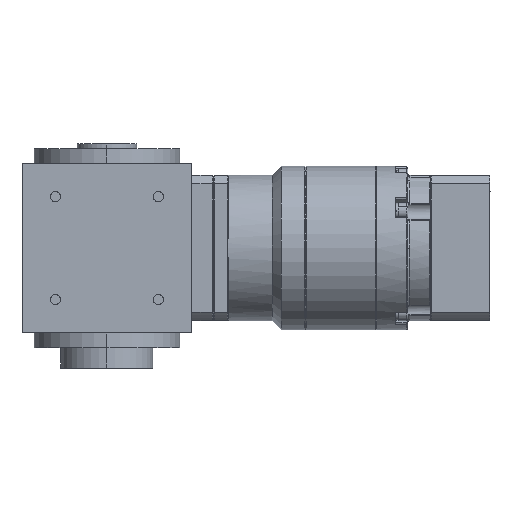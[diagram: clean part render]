
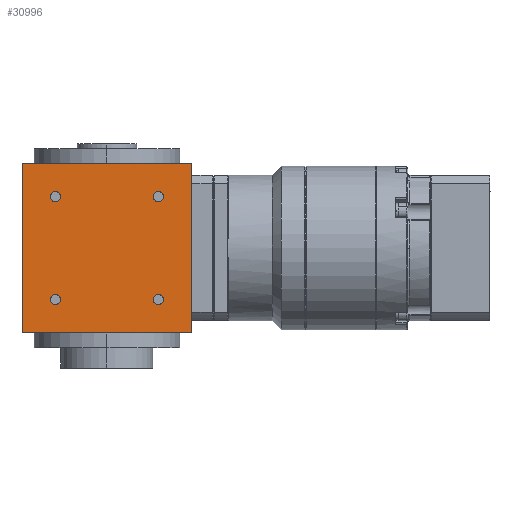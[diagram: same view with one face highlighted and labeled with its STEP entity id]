
A CAD part, left-side view. The second image highlights one B-rep face of the part: STEP entity #30996.
In plain terms, the highlighted planar face has unit normal (-1, 0, 0).
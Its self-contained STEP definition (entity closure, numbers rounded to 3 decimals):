
#477 = FACE_BOUND ( 'NONE', #10835, .T. ) ;
#590 = CARTESIAN_POINT ( 'NONE',  ( -35., -21.213, 21.213 ) ) ;
#1011 = VERTEX_POINT ( 'NONE', #22765 ) ;
#1396 = AXIS2_PLACEMENT_3D ( 'NONE', #590, #8149, #10407 ) ;
#1455 = VERTEX_POINT ( 'NONE', #25993 ) ;
#1876 = AXIS2_PLACEMENT_3D ( 'NONE', #10295, #22674, #22839 ) ;
#1989 = DIRECTION ( 'NONE',  ( 0., -1., 0. ) ) ;
#2300 = VERTEX_POINT ( 'NONE', #19332 ) ;
#2793 = EDGE_CURVE ( 'NONE', #30380, #2300, #31050, .T. ) ;
#2864 = DIRECTION ( 'NONE',  ( 0., -1., 0. ) ) ;
#3685 = VECTOR ( 'NONE', #30088, 1000. ) ;
#4239 = DIRECTION ( 'NONE',  ( 1., 0., 0. ) ) ;
#4642 = EDGE_CURVE ( 'NONE', #21988, #27506, #18541, .T. ) ;
#4647 = ORIENTED_EDGE ( 'NONE', *, *, #18166, .T. ) ;
#4703 = EDGE_CURVE ( 'NONE', #27506, #21988, #30917, .T. ) ;
#4999 = EDGE_CURVE ( 'NONE', #7158, #1011, #16893, .T. ) ;
#5089 = CARTESIAN_POINT ( 'NONE',  ( -35., 21.213, -21.213 ) ) ;
#5367 = EDGE_CURVE ( 'NONE', #14785, #8241, #28637, .T. ) ;
#5781 = FACE_BOUND ( 'NONE', #7157, .T. ) ;
#6309 = ORIENTED_EDGE ( 'NONE', *, *, #28696, .T. ) ;
#6415 = AXIS2_PLACEMENT_3D ( 'NONE', #31045, #16519, #20716 ) ;
#6509 = CIRCLE ( 'NONE', #30715, 2.1 ) ;
#6604 = DIRECTION ( 'NONE',  ( 1., 0., 0. ) ) ;
#6643 = CARTESIAN_POINT ( 'NONE',  ( -35., -21.213, -21.213 ) ) ;
#6662 = VECTOR ( 'NONE', #18998, 1000. ) ;
#7158 = VERTEX_POINT ( 'NONE', #30350 ) ;
#7157 = EDGE_LOOP ( 'NONE', ( #6309, #16857 ) ) ;
#7424 = DIRECTION ( 'NONE',  ( 1., 0., 0. ) ) ;
#7710 = CIRCLE ( 'NONE', #26809, 2.1 ) ;
#8149 = DIRECTION ( 'NONE',  ( 1., 0., 0. ) ) ;
#8177 = CARTESIAN_POINT ( 'NONE',  ( -35., -23.313, 21.213 ) ) ;
#8241 = VERTEX_POINT ( 'NONE', #23322 ) ;
#8308 = ORIENTED_EDGE ( 'NONE', *, *, #22977, .T. ) ;
#8485 = CIRCLE ( 'NONE', #6415, 2.1 ) ;
#9036 = CARTESIAN_POINT ( 'NONE',  ( -35., 35., -35. ) ) ;
#9431 = CARTESIAN_POINT ( 'NONE',  ( -35., -19.113, -21.213 ) ) ;
#9480 = ORIENTED_EDGE ( 'NONE', *, *, #12671, .F. ) ;
#9778 = DIRECTION ( 'NONE',  ( 1., 0., 0. ) ) ;
#10295 = CARTESIAN_POINT ( 'NONE',  ( -35., 35., -35. ) ) ;
#10407 = DIRECTION ( 'NONE',  ( 0., -1., 0. ) ) ;
#10628 = EDGE_CURVE ( 'NONE', #29567, #22961, #8485, .T. ) ;
#10835 = EDGE_LOOP ( 'NONE', ( #4647, #27313 ) ) ;
#10861 = AXIS2_PLACEMENT_3D ( 'NONE', #6643, #4239, #1989 ) ;
#10902 = VERTEX_POINT ( 'NONE', #12487 ) ;
#11054 = ORIENTED_EDGE ( 'NONE', *, *, #11925, .T. ) ;
#11336 = DIRECTION ( 'NONE',  ( 0., -1., 0. ) ) ;
#11925 = EDGE_CURVE ( 'NONE', #2300, #30380, #6509, .T. ) ;
#12487 = CARTESIAN_POINT ( 'NONE',  ( -35., 19.113, 21.213 ) ) ;
#12671 = EDGE_CURVE ( 'NONE', #1011, #14785, #18712, .T. ) ;
#13039 = FACE_BOUND ( 'NONE', #22118, .T. ) ;
#13860 = DIRECTION ( 'NONE',  ( 0., -1., 0. ) ) ;
#14589 = CARTESIAN_POINT ( 'NONE',  ( -35., -23.313, -21.213 ) ) ;
#14785 = VERTEX_POINT ( 'NONE', #16804 ) ;
#15253 = ORIENTED_EDGE ( 'NONE', *, *, #4703, .T. ) ;
#16449 = CARTESIAN_POINT ( 'NONE',  ( -35., 23.313, -21.213 ) ) ;
#16519 = DIRECTION ( 'NONE',  ( 1., 0., 0. ) ) ;
#16804 = CARTESIAN_POINT ( 'NONE',  ( -35., -35., 35. ) ) ;
#16857 = ORIENTED_EDGE ( 'NONE', *, *, #21789, .T. ) ;
#16893 = LINE ( 'NONE', #9036, #6662 ) ;
#17521 = FACE_OUTER_BOUND ( 'NONE', #17975, .T. ) ;
#17975 = EDGE_LOOP ( 'NONE', ( #19849, #9480, #29576, #8308 ) ) ;
#18166 = EDGE_CURVE ( 'NONE', #22961, #29567, #30193, .T. ) ;
#18541 = CIRCLE ( 'NONE', #10861, 2.1 ) ;
#18712 = LINE ( 'NONE', #23085, #25220 ) ;
#18741 = CARTESIAN_POINT ( 'NONE',  ( -35., 21.213, 21.213 ) ) ;
#18806 = CARTESIAN_POINT ( 'NONE',  ( -35., -35., -35. ) ) ;
#18963 = DIRECTION ( 'NONE',  ( 0., 0., -1. ) ) ;
#18998 = DIRECTION ( 'NONE',  ( 0., 0., 1. ) ) ;
#19332 = CARTESIAN_POINT ( 'NONE',  ( -35., 19.113, -21.213 ) ) ;
#19636 = DIRECTION ( 'NONE',  ( 0., -1., 0. ) ) ;
#19764 = CIRCLE ( 'NONE', #21820, 2.1 ) ;
#19849 = ORIENTED_EDGE ( 'NONE', *, *, #5367, .F. ) ;
#20024 = ORIENTED_EDGE ( 'NONE', *, *, #4642, .T. ) ;
#20524 = DIRECTION ( 'NONE',  ( 0., -1., 0. ) ) ;
#20716 = DIRECTION ( 'NONE',  ( 0., -1., 0. ) ) ;
#21789 = EDGE_CURVE ( 'NONE', #1455, #10902, #7710, .T. ) ;
#21820 = AXIS2_PLACEMENT_3D ( 'NONE', #18741, #28579, #28111 ) ;
#21988 = VERTEX_POINT ( 'NONE', #9431 ) ;
#22118 = EDGE_LOOP ( 'NONE', ( #15253, #20024 ) ) ;
#22674 = DIRECTION ( 'NONE',  ( -1., 0., 0. ) ) ;
#22765 = CARTESIAN_POINT ( 'NONE',  ( -35., 35., 35. ) ) ;
#22839 = DIRECTION ( 'NONE',  ( 0., -1., 0. ) ) ;
#22961 = VERTEX_POINT ( 'NONE', #8177 ) ;
#22977 = EDGE_CURVE ( 'NONE', #7158, #8241, #23143, .T. ) ;
#23085 = CARTESIAN_POINT ( 'NONE',  ( -35., 0., 35. ) ) ;
#23143 = LINE ( 'NONE', #30551, #3685 ) ;
#23322 = CARTESIAN_POINT ( 'NONE',  ( -35., -35., -35. ) ) ;
#23690 = AXIS2_PLACEMENT_3D ( 'NONE', #24636, #7424, #19636 ) ;
#24636 = CARTESIAN_POINT ( 'NONE',  ( -35., -21.213, -21.213 ) ) ;
#24833 = EDGE_LOOP ( 'NONE', ( #11054, #31110 ) ) ;
#24893 = CARTESIAN_POINT ( 'NONE',  ( -35., 21.213, 21.213 ) ) ;
#24920 = PLANE ( 'NONE',  #1876 ) ;
#25090 = FACE_BOUND ( 'NONE', #24833, .T. ) ;
#25220 = VECTOR ( 'NONE', #11336, 1000. ) ;
#25993 = CARTESIAN_POINT ( 'NONE',  ( -35., 23.313, 21.213 ) ) ;
#26393 = CARTESIAN_POINT ( 'NONE',  ( -35., 21.213, -21.213 ) ) ;
#26406 = AXIS2_PLACEMENT_3D ( 'NONE', #5089, #30213, #20524 ) ;
#26809 = AXIS2_PLACEMENT_3D ( 'NONE', #24893, #9778, #2864 ) ;
#27313 = ORIENTED_EDGE ( 'NONE', *, *, #10628, .T. ) ;
#27506 = VERTEX_POINT ( 'NONE', #14589 ) ;
#28111 = DIRECTION ( 'NONE',  ( 0., -1., 0. ) ) ;
#28579 = DIRECTION ( 'NONE',  ( 1., 0., 0. ) ) ;
#28637 = LINE ( 'NONE', #18806, #29840 ) ;
#28696 = EDGE_CURVE ( 'NONE', #10902, #1455, #19764, .T. ) ;
#29567 = VERTEX_POINT ( 'NONE', #31092 ) ;
#29576 = ORIENTED_EDGE ( 'NONE', *, *, #4999, .F. ) ;
#29840 = VECTOR ( 'NONE', #18963, 1000. ) ;
#30088 = DIRECTION ( 'NONE',  ( 0., -1., 0. ) ) ;
#30193 = CIRCLE ( 'NONE', #1396, 2.1 ) ;
#30213 = DIRECTION ( 'NONE',  ( 1., 0., 0. ) ) ;
#30350 = CARTESIAN_POINT ( 'NONE',  ( -35., 35., -35. ) ) ;
#30380 = VERTEX_POINT ( 'NONE', #16449 ) ;
#30551 = CARTESIAN_POINT ( 'NONE',  ( -35., 0., -35. ) ) ;
#30715 = AXIS2_PLACEMENT_3D ( 'NONE', #26393, #6604, #13860 ) ;
#30917 = CIRCLE ( 'NONE', #23690, 2.1 ) ;
#30996 = ADVANCED_FACE ( 'NONE', ( #5781, #477, #13039, #25090, #17521 ), #24920, .T. ) ;
#31045 = CARTESIAN_POINT ( 'NONE',  ( -35., -21.213, 21.213 ) ) ;
#31050 = CIRCLE ( 'NONE', #26406, 2.1 ) ;
#31092 = CARTESIAN_POINT ( 'NONE',  ( -35., -19.113, 21.213 ) ) ;
#31110 = ORIENTED_EDGE ( 'NONE', *, *, #2793, .T. ) ;
